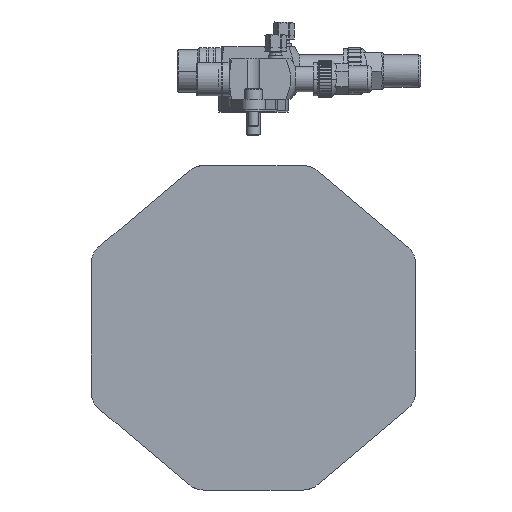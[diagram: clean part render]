
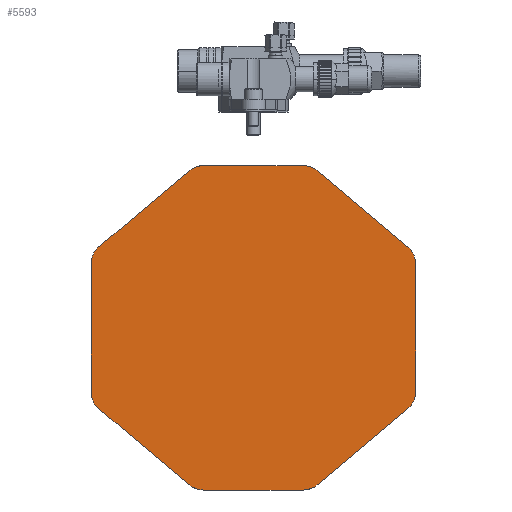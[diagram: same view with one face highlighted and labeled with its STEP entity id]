
A CAD part, left-side view. The second image highlights one B-rep face of the part: STEP entity #5593.
In plain terms, the highlighted planar face has unit normal (-1, 0, 0) as drawn and (0, 0, 1) by its records, which use the part's own axes.
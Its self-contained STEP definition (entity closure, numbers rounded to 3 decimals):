
#3654=FACE_OUTER_BOUND('',#7554,.T.);
#5593=ADVANCED_FACE('',(#3654),#6468,.F.);
#6468=PLANE('',#21351);
#6851=ELLIPSE('',#21328,16.003,16.);
#6853=ELLIPSE('',#21331,16.003,16.);
#6855=ELLIPSE('',#21334,16.003,16.);
#6857=ELLIPSE('',#21337,16.003,16.);
#6859=ELLIPSE('',#21340,16.003,16.);
#6861=ELLIPSE('',#21343,16.003,16.);
#6863=ELLIPSE('',#21346,16.003,16.);
#6865=ELLIPSE('',#21349,16.003,16.);
#7554=EDGE_LOOP('',(#10235,#10236,#10237,#10238,#10239,#10240,#10241,#10242,
#10243,#10244,#10245,#10246,#10247,#10248,#10249,#10250));
#10235=ORIENTED_EDGE('',*,*,#16157,.F.);
#10236=ORIENTED_EDGE('',*,*,#16187,.F.);
#10237=ORIENTED_EDGE('',*,*,#16185,.F.);
#10238=ORIENTED_EDGE('',*,*,#16183,.F.);
#10239=ORIENTED_EDGE('',*,*,#16181,.F.);
#10240=ORIENTED_EDGE('',*,*,#16179,.F.);
#10241=ORIENTED_EDGE('',*,*,#16177,.F.);
#10242=ORIENTED_EDGE('',*,*,#16175,.F.);
#10243=ORIENTED_EDGE('',*,*,#16173,.F.);
#10244=ORIENTED_EDGE('',*,*,#16171,.F.);
#10245=ORIENTED_EDGE('',*,*,#16169,.F.);
#10246=ORIENTED_EDGE('',*,*,#16167,.F.);
#10247=ORIENTED_EDGE('',*,*,#16165,.F.);
#10248=ORIENTED_EDGE('',*,*,#16163,.F.);
#10249=ORIENTED_EDGE('',*,*,#16161,.F.);
#10250=ORIENTED_EDGE('',*,*,#16159,.F.);
#14101=VERTEX_POINT('',#30769);
#14102=VERTEX_POINT('',#30771);
#14103=VERTEX_POINT('',#30775);
#14104=VERTEX_POINT('',#30779);
#14105=VERTEX_POINT('',#30783);
#14106=VERTEX_POINT('',#30787);
#14107=VERTEX_POINT('',#30791);
#14108=VERTEX_POINT('',#30795);
#14109=VERTEX_POINT('',#30799);
#14110=VERTEX_POINT('',#30803);
#14111=VERTEX_POINT('',#30807);
#14112=VERTEX_POINT('',#30811);
#14113=VERTEX_POINT('',#30815);
#14114=VERTEX_POINT('',#30819);
#14115=VERTEX_POINT('',#30823);
#14116=VERTEX_POINT('',#30827);
#16157=EDGE_CURVE('',#14101,#14102,#18386,.T.);
#16159=EDGE_CURVE('',#14102,#14103,#6851,.T.);
#16161=EDGE_CURVE('',#14103,#14104,#18389,.T.);
#16163=EDGE_CURVE('',#14104,#14105,#6853,.T.);
#16165=EDGE_CURVE('',#14105,#14106,#18392,.T.);
#16167=EDGE_CURVE('',#14106,#14107,#6855,.T.);
#16169=EDGE_CURVE('',#14107,#14108,#18395,.T.);
#16171=EDGE_CURVE('',#14108,#14109,#6857,.T.);
#16173=EDGE_CURVE('',#14109,#14110,#18398,.T.);
#16175=EDGE_CURVE('',#14110,#14111,#6859,.T.);
#16177=EDGE_CURVE('',#14111,#14112,#18401,.T.);
#16179=EDGE_CURVE('',#14112,#14113,#6861,.T.);
#16181=EDGE_CURVE('',#14113,#14114,#18404,.T.);
#16183=EDGE_CURVE('',#14114,#14115,#6863,.T.);
#16185=EDGE_CURVE('',#14115,#14116,#18407,.T.);
#16187=EDGE_CURVE('',#14116,#14101,#6865,.T.);
#18386=LINE('',#30770,#19846);
#18389=LINE('',#30778,#19850);
#18392=LINE('',#30786,#19854);
#18395=LINE('',#30794,#19858);
#18398=LINE('',#30802,#19862);
#18401=LINE('',#30810,#19866);
#18404=LINE('',#30818,#19870);
#18407=LINE('',#30826,#19874);
#19846=VECTOR('',#24320,1.);
#19850=VECTOR('',#24330,1.);
#19854=VECTOR('',#24340,1.);
#19858=VECTOR('',#24350,1.);
#19862=VECTOR('',#24360,1.);
#19866=VECTOR('',#24370,1.);
#19870=VECTOR('',#24380,1.);
#19874=VECTOR('',#24390,1.);
#21328=AXIS2_PLACEMENT_3D('',#30774,#24324,#24325);
#21331=AXIS2_PLACEMENT_3D('',#30782,#24334,#24335);
#21334=AXIS2_PLACEMENT_3D('',#30790,#24344,#24345);
#21337=AXIS2_PLACEMENT_3D('',#30798,#24354,#24355);
#21340=AXIS2_PLACEMENT_3D('',#30806,#24364,#24365);
#21343=AXIS2_PLACEMENT_3D('',#30814,#24374,#24375);
#21346=AXIS2_PLACEMENT_3D('',#30822,#24384,#24385);
#21349=AXIS2_PLACEMENT_3D('',#30830,#24394,#24395);
#21351=AXIS2_PLACEMENT_3D('',#30832,#24399,#24400);
#24320=DIRECTION('',(0.766,0.643,0.));
#24324=DIRECTION('',(0.,0.,-1.));
#24325=DIRECTION('',(-0.342,0.94,0.));
#24330=DIRECTION('',(1.,0.,0.));
#24334=DIRECTION('',(0.,0.,-1.));
#24335=DIRECTION('',(0.342,0.94,0.));
#24340=DIRECTION('',(0.766,-0.643,0.));
#24344=DIRECTION('',(0.,0.,-1.));
#24345=DIRECTION('',(0.906,0.423,0.));
#24350=DIRECTION('',(0.,-1.,0.));
#24354=DIRECTION('',(0.,0.,-1.));
#24355=DIRECTION('',(0.906,-0.423,0.));
#24360=DIRECTION('',(-0.766,-0.643,0.));
#24364=DIRECTION('',(0.,0.,-1.));
#24365=DIRECTION('',(0.342,-0.94,0.));
#24370=DIRECTION('',(-1.,0.,0.));
#24374=DIRECTION('',(0.,0.,-1.));
#24375=DIRECTION('',(-0.342,-0.94,0.));
#24380=DIRECTION('',(-0.766,0.643,0.));
#24384=DIRECTION('',(0.,0.,-1.));
#24385=DIRECTION('',(-0.906,-0.423,0.));
#24390=DIRECTION('',(0.,1.,0.));
#24394=DIRECTION('',(0.,0.,-1.));
#24395=DIRECTION('',(-0.906,0.423,0.));
#24399=DIRECTION('',(0.,0.,-1.));
#24400=DIRECTION('',(-1.,0.,0.));
#30769=CARTESIAN_POINT('',(-114.851,60.191,0.));
#30770=CARTESIAN_POINT('',(-114.851,60.191,0.));
#30771=CARTESIAN_POINT('',(-47.364,116.822,0.));
#30774=CARTESIAN_POINT('',(-37.079,104.563,0.));
#30775=CARTESIAN_POINT('',(-37.081,120.565,0.));
#30778=CARTESIAN_POINT('',(-37.081,120.565,0.));
#30779=CARTESIAN_POINT('',(37.048,120.565,0.));
#30782=CARTESIAN_POINT('',(37.046,104.563,0.));
#30783=CARTESIAN_POINT('',(47.331,116.822,0.));
#30786=CARTESIAN_POINT('',(47.331,116.822,0.));
#30787=CARTESIAN_POINT('',(114.851,60.167,0.));
#30790=CARTESIAN_POINT('',(104.563,47.91,0.));
#30791=CARTESIAN_POINT('',(120.565,47.912,0.));
#30794=CARTESIAN_POINT('',(120.565,47.912,0.));
#30795=CARTESIAN_POINT('',(120.565,-47.936,0.));
#30798=CARTESIAN_POINT('',(104.563,-47.934,0.));
#30799=CARTESIAN_POINT('',(114.851,-60.191,0.));
#30802=CARTESIAN_POINT('',(114.851,-60.191,0.));
#30803=CARTESIAN_POINT('',(47.364,-116.822,0.));
#30806=CARTESIAN_POINT('',(37.079,-104.563,0.));
#30807=CARTESIAN_POINT('',(37.081,-120.565,0.));
#30810=CARTESIAN_POINT('',(37.081,-120.565,0.));
#30811=CARTESIAN_POINT('',(-37.048,-120.565,0.));
#30814=CARTESIAN_POINT('',(-37.046,-104.563,0.));
#30815=CARTESIAN_POINT('',(-47.331,-116.822,0.));
#30818=CARTESIAN_POINT('',(-47.331,-116.822,0.));
#30819=CARTESIAN_POINT('',(-114.851,-60.167,0.));
#30822=CARTESIAN_POINT('',(-104.563,-47.91,0.));
#30823=CARTESIAN_POINT('',(-120.565,-47.912,0.));
#30826=CARTESIAN_POINT('',(-120.565,-47.912,0.));
#30827=CARTESIAN_POINT('',(-120.565,47.936,0.));
#30830=CARTESIAN_POINT('',(-104.563,47.934,0.));
#30832=CARTESIAN_POINT('',(-37.079,104.563,0.));
